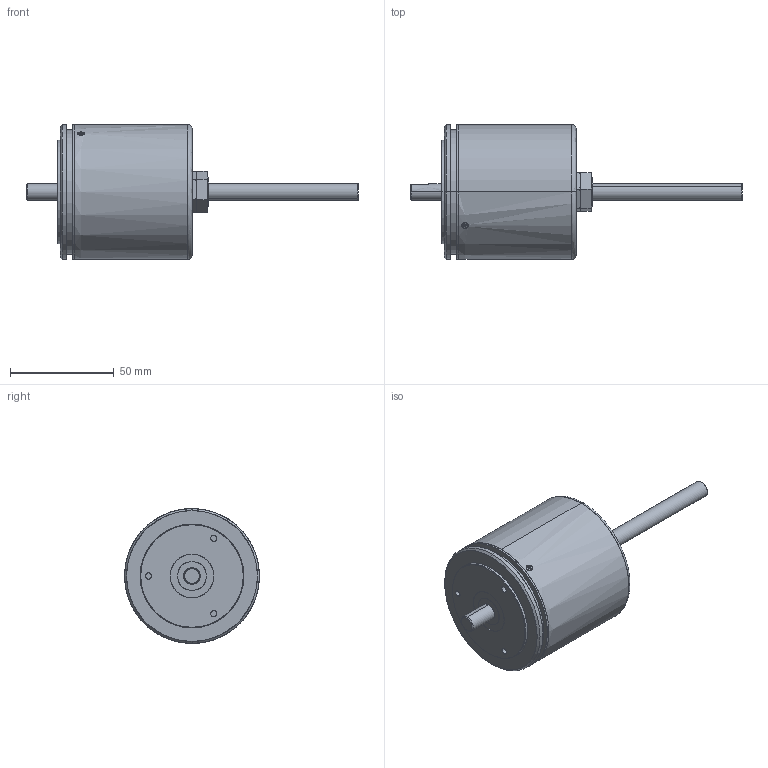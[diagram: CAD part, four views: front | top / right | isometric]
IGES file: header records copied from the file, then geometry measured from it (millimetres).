
Start section: SolidWorks IGES file using analytic representation for surfaces
Bounding box: 160 x 65 x 65 mm (x, y, z)
Surface area: 32107 mm2 (no closed solid volume)
Topology: 0 solids, 0 shells, 104 faces, 2016 edges, 2016 vertices
Faces by surface type: revolution 57, bspline 47
